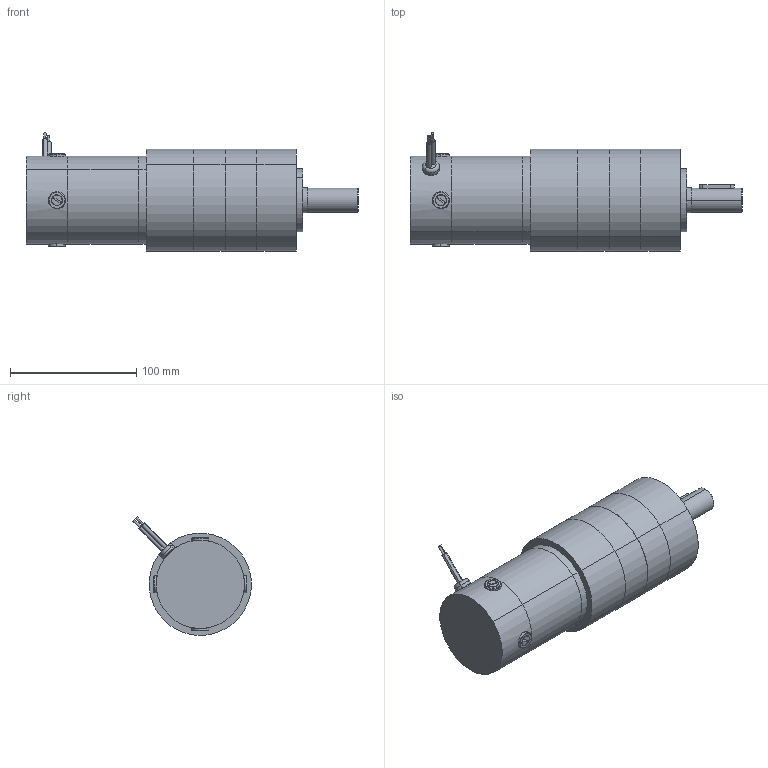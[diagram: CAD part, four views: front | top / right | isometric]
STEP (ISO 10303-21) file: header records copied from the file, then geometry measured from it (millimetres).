
FILE_DESCRIPTION (( 'STEP AP203' ), '1' );
FILE_NAME ('s27411bgp2.step', '2018-12-07T20:02:22', ( '' ), ( '' ), 'SwSTEP 2.0', 'SolidWorks 2017', '' );
FILE_SCHEMA (( 'CONFIG_CONTROL_DESIGN' ));
Length unit declared in the file: inch
Products named in the file (1): s27411bgp2
Bounding box: 263 x 93.8 x 93.8 mm (x, y, z)
Volume: 1004725.2 mm3; surface area: 139195.1 mm2
Topology: 19 solids, 19 shells, 362 faces, 764 edges, 476 vertices
Faces by surface type: cylinder 153, plane 150, cone 49, torus 6, sphere 4
Entity records: 10165 total; most frequent: CARTESIAN_POINT 2128, DIRECTION 1801, ORIENTED_EDGE 1496, EDGE_CURVE 748, AXIS2_PLACEMENT_3D 720, VERTEX_POINT 476, EDGE_LOOP 430, FACE_OUTER_BOUND 362
